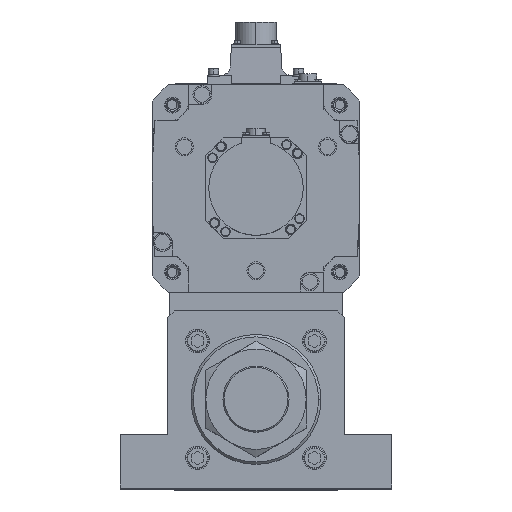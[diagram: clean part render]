
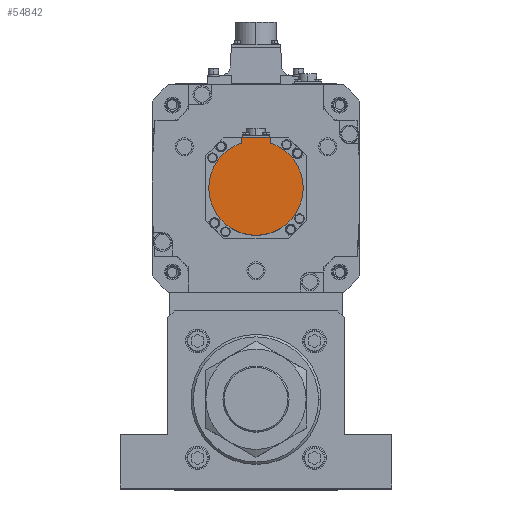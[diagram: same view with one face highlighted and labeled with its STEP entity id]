
A CAD part, top view. The second image highlights one B-rep face of the part: STEP entity #54842.
In plain terms, the highlighted planar face has unit normal (0, 0, 1) as drawn and (0, 0, -1) by its records, which use the part's own axes.
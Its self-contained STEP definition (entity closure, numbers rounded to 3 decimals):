
#102 = LINE ( 'NONE', #51411, #34110 ) ;
#436 = EDGE_CURVE ( 'NONE', #25653, #54139, #32248, .T. ) ;
#944 = DIRECTION ( 'NONE',  ( 1., 0., 0. ) ) ;
#1105 = DIRECTION ( 'NONE',  ( 1., 0., 0. ) ) ;
#2719 = CARTESIAN_POINT ( 'NONE',  ( 0., 0., -228. ) ) ;
#3502 = CARTESIAN_POINT ( 'NONE',  ( -12., -38.158, -228. ) ) ;
#4100 = VECTOR ( 'NONE', #12149, 1000. ) ;
#4523 = AXIS2_PLACEMENT_3D ( 'NONE', #13588, #26829, #1105 ) ;
#4532 = EDGE_CURVE ( 'NONE', #44282, #49909, #49963, .T. ) ;
#4778 = CIRCLE ( 'NONE', #33657, 40. ) ;
#5252 = FACE_OUTER_BOUND ( 'NONE', #45234, .T. ) ;
#5253 = DIRECTION ( 'NONE',  ( 0., 0., 1. ) ) ;
#5435 = DIRECTION ( 'NONE',  ( 1., 0., 0. ) ) ;
#8102 = CARTESIAN_POINT ( 'NONE',  ( 12., -38.158, -228. ) ) ;
#8581 = ORIENTED_EDGE ( 'NONE', *, *, #8782, .T. ) ;
#8782 = EDGE_CURVE ( 'NONE', #25653, #28014, #102, .T. ) ;
#11915 = CARTESIAN_POINT ( 'NONE',  ( -40., 0., -228. ) ) ;
#12149 = DIRECTION ( 'NONE',  ( 0., 1., 0. ) ) ;
#12246 = CARTESIAN_POINT ( 'NONE',  ( 12., -1.249, -228. ) ) ;
#13588 = CARTESIAN_POINT ( 'NONE',  ( 0., -1.249, -228. ) ) ;
#15647 = CIRCLE ( 'NONE', #38619, 40. ) ;
#15909 = CARTESIAN_POINT ( 'NONE',  ( -12., -42.5, -228. ) ) ;
#16970 = EDGE_CURVE ( 'NONE', #28014, #49909, #24108, .T. ) ;
#22046 = ORIENTED_EDGE ( 'NONE', *, *, #51636, .F. ) ;
#24108 = LINE ( 'NONE', #29495, #4100 ) ;
#25653 = VERTEX_POINT ( 'NONE', #54772 ) ;
#25716 = CARTESIAN_POINT ( 'NONE',  ( 40., 0., -228. ) ) ;
#26338 = ORIENTED_EDGE ( 'NONE', *, *, #16970, .T. ) ;
#26511 = DIRECTION ( 'NONE',  ( 0., 0., 1. ) ) ;
#26829 = DIRECTION ( 'NONE',  ( 0., 0., 1. ) ) ;
#27138 = VERTEX_POINT ( 'NONE', #25716 ) ;
#27545 = ORIENTED_EDGE ( 'NONE', *, *, #436, .F. ) ;
#28014 = VERTEX_POINT ( 'NONE', #15909 ) ;
#28441 = DIRECTION ( 'NONE',  ( 1., 0., 0. ) ) ;
#29495 = CARTESIAN_POINT ( 'NONE',  ( -12., -40.329, -228. ) ) ;
#30127 = ORIENTED_EDGE ( 'NONE', *, *, #4532, .F. ) ;
#30729 = PLANE ( 'NONE',  #4523 ) ;
#32248 = LINE ( 'NONE', #12246, #45661 ) ;
#33657 = AXIS2_PLACEMENT_3D ( 'NONE', #2719, #54248, #28441 ) ;
#34110 = VECTOR ( 'NONE', #47022, 1000. ) ;
#35433 = CARTESIAN_POINT ( 'NONE',  ( 0., 0., -228. ) ) ;
#35812 = AXIS2_PLACEMENT_3D ( 'NONE', #35433, #26511, #944 ) ;
#37651 = DIRECTION ( 'NONE',  ( 0., 1., 0. ) ) ;
#38619 = AXIS2_PLACEMENT_3D ( 'NONE', #47831, #5253, #5435 ) ;
#44282 = VERTEX_POINT ( 'NONE', #11915 ) ;
#45234 = EDGE_LOOP ( 'NONE', ( #26338, #30127, #22046, #52783, #27545, #8581 ) ) ;
#45661 = VECTOR ( 'NONE', #37651, 1000. ) ;
#47022 = DIRECTION ( 'NONE',  ( -1., 0., 0. ) ) ;
#47831 = CARTESIAN_POINT ( 'NONE',  ( 0., 0., -228. ) ) ;
#48723 = EDGE_CURVE ( 'NONE', #54139, #27138, #15647, .T. ) ;
#49909 = VERTEX_POINT ( 'NONE', #3502 ) ;
#49963 = CIRCLE ( 'NONE', #35812, 40. ) ;
#51411 = CARTESIAN_POINT ( 'NONE',  ( 0., -42.5, -228. ) ) ;
#51636 = EDGE_CURVE ( 'NONE', #27138, #44282, #4778, .T. ) ;
#52783 = ORIENTED_EDGE ( 'NONE', *, *, #48723, .F. ) ;
#54139 = VERTEX_POINT ( 'NONE', #8102 ) ;
#54248 = DIRECTION ( 'NONE',  ( 0., 0., 1. ) ) ;
#54772 = CARTESIAN_POINT ( 'NONE',  ( 12., -42.5, -228. ) ) ;
#54842 = ADVANCED_FACE ( 'NONE', ( #5252 ), #30729, .F. ) ;
